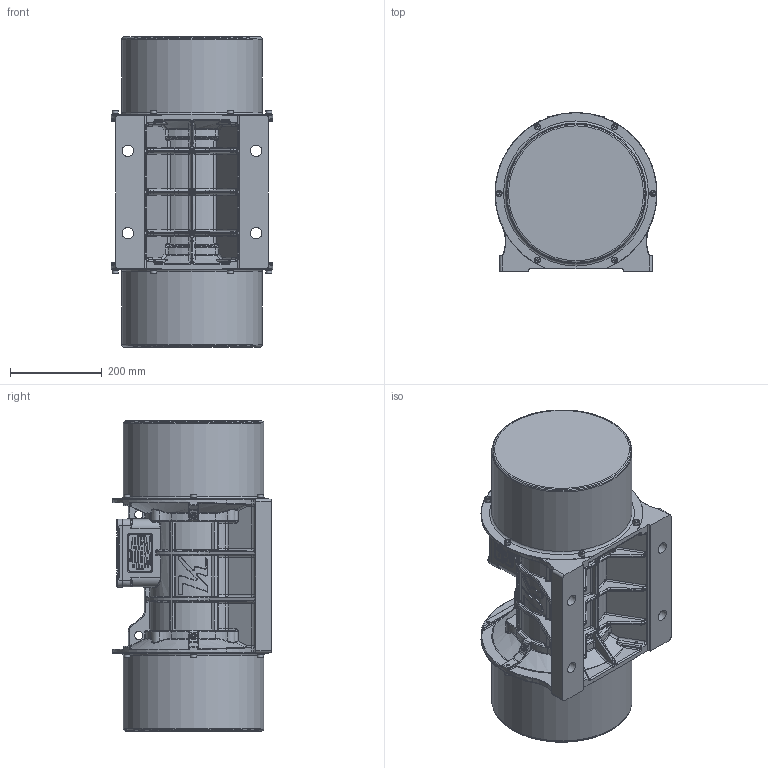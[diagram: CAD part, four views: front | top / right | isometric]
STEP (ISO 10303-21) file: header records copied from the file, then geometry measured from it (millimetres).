
FILE_DESCRIPTION(/* description */ (''),/* implementation_level */ '2;1');
FILE_NAME(/* name */ '8 NO B TAS.stp',/* time_stamp */ '2026-09-03T14:13:07+03:00',/* author */ ('PC'),/* organization */ (''),/* preprocessor_version */ 'ST-DEVELOPER v20.1',/* originating_system */ 'Autodesk Inventor 2026',/* authorisation */ '');
FILE_SCHEMA (('AUTOMOTIVE_DESIGN { 1 0 10303 214 3 1 1 }'));
Products named in the file (1): 8 NO B TAS
Bounding box: 353.96 x 347 x 678 mm (x, y, z)
Volume: 41761490.8 mm3; surface area: 1236797.1 mm2
Topology: 1 solids, 25 shells, 4961 faces, 12545 edges, 7765 vertices
Faces by surface type: plane 2061, bspline 1562, cylinder 746, torus 352, sphere 126, cone 114
Full cylindrical faces by diameter (mm): 3 x4, 6 x4, 6.647 x18, 8 x14, 8.4 x12, 8.5 x2, 9 x12, 13 x16, 16 x4, 18 x2, 18.5 x1, 18.6 x1, 21.3 x1, 22.5 x1, 25 x4, 28 x1, 32.2 x1, 46 x4, 307 x2
Entity records: 225276 total; most frequent: CARTESIAN_POINT 113472, ORIENTED_EDGE 24678, DIRECTION 18905, EDGE_CURVE 12339, VERTEX_POINT 7765, LINE 6583, VECTOR 6583, AXIS2_PLACEMENT_3D 6161
